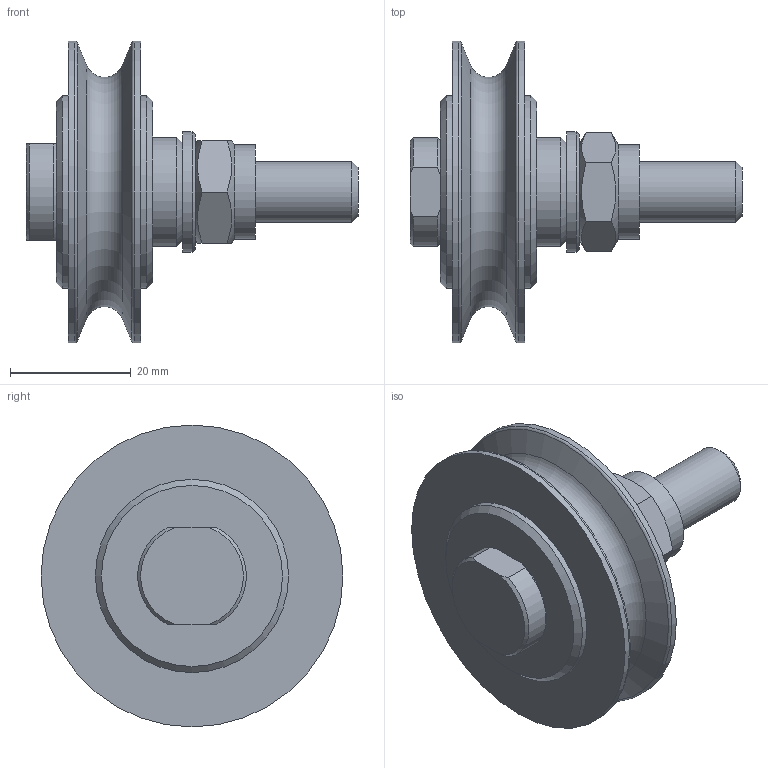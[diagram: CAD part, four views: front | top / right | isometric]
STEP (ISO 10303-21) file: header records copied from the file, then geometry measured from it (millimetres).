
FILE_DESCRIPTION(/* description */ ('Seilrolle ø50 feststehende Achse'),/* implementation_level */ '2;1');
FILE_NAME(/* name */ 'Z:\Workspace\03 Seilrollen\1.408 Seilrollen feststehende Achse Gleitlager\1.408.01 Seilrolle ø50 feststehende Achse GL\1.408.01 Seilrolle ø50 feststehende Achse.stp',/* time_stamp */ '2021-10-11T09:46:48+02:00',/* author */ ('cad-user'),/* organization */ (''),/* preprocessor_version */ 'ST-DEVELOPER v18',/* originating_system */ 'Autodesk Inventor 2020',/* authorisation */ '');
FILE_SCHEMA (('AUTOMOTIVE_DESIGN { 1 0 10303 214 3 1 1 }'));
Length unit declared in the file: millimetre
Products named in the file (8): 1.408.01 Seilrolle ø50 feststehende Achse; 1.401.01 Seilrolle ø50 Buchse komplett; 1.401.01 Seilrolle ø50 Buchse; Lagerbuchse 1015-DU; 1.408.01.02 Scheibe; 1.408.01.01 Schraube; DIN 125-1 - B 10,5; DIN 985 - M10
Assembly tree (7 placements, depth 3):
  1.408.01 Seilrolle ø50 feststehende Achse
    1.401.01 Seilrolle ø50 Buchse komplett
      1.401.01 Seilrolle ø50 Buchse
      Lagerbuchse 1015-DU
    1.408.01.02 Scheibe
    1.408.01.01 Schraube
    DIN 125-1 - B 10,5
    DIN 985 - M10
Bounding box: 55 x 50 x 50 mm (x, y, z)
Volume: 28372.8 mm3; surface area: 12977 mm2
Topology: 6 solids, 6 shells, 61 faces, 145 edges, 97 vertices
Faces by surface type: plane 23, cone 19, cylinder 16, torus 3
Full cylindrical faces by diameter (mm): 2.459 x1, 10 x2, 10.5 x1, 11 x1, 12 x1, 15.6 x1, 18 x1, 20 x1, 32 x2, 50 x2
Entity records: 2111 total; most frequent: CARTESIAN_POINT 366, DIRECTION 351, ORIENTED_EDGE 290, AXIS2_PLACEMENT_3D 154, EDGE_CURVE 145, VERTEX_POINT 97, CIRCLE 78, EDGE_LOOP 72
